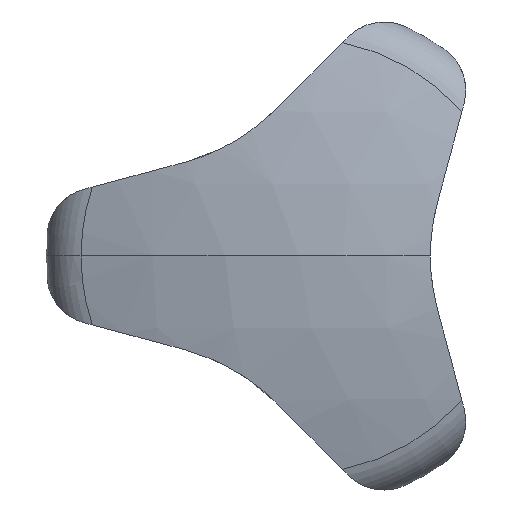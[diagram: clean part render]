
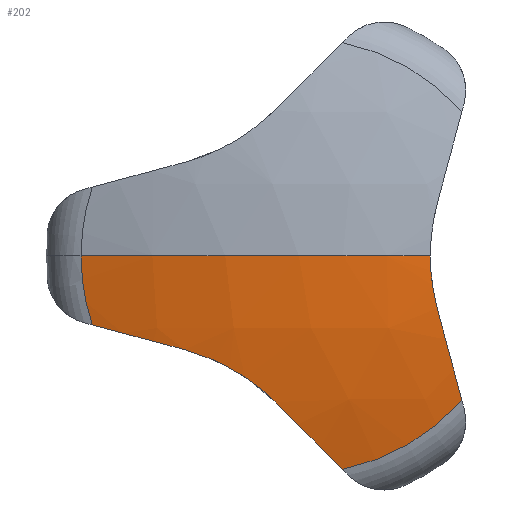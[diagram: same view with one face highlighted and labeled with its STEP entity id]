
A CAD part, left-side view. The second image highlights one B-rep face of the part: STEP entity #202.
In plain terms, the highlighted spherical face has radius 35 mm.
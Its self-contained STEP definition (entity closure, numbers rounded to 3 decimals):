
#33 = EDGE_CURVE ( 'NONE', #1074, #229, #824, .T. ) ;
#40 = ORIENTED_EDGE ( 'NONE', *, *, #1070, .T. ) ;
#45 = DIRECTION ( 'NONE',  ( 0., 1., 0. ) ) ;
#62 = DIRECTION ( 'NONE',  ( 0., 0., 1. ) ) ;
#73 = VERTEX_POINT ( 'NONE', #430 ) ;
#76 = CARTESIAN_POINT ( 'NONE',  ( 19., 0., 0. ) ) ;
#90 = EDGE_CURVE ( 'NONE', #1074, #1366, #1461, .T. ) ;
#94 = SPHERICAL_SURFACE ( 'NONE', #915, 35. ) ;
#95 = CARTESIAN_POINT ( 'NONE',  ( -15.391, 4.015, -5.188 ) ) ;
#105 = CARTESIAN_POINT ( 'NONE',  ( -15.282, 1.488, -6.909 ) ) ;
#144 = ORIENTED_EDGE ( 'NONE', *, *, #90, .T. ) ;
#167 = CARTESIAN_POINT ( 'NONE',  ( 19., -5.735, 1.537 ) ) ;
#202 = ADVANCED_FACE ( 'NONE', ( #1259 ), #94, .T. ) ;
#203 = VERTEX_POINT ( 'NONE', #1411 ) ;
#205 = CIRCLE ( 'NONE', #1288, 10.769 ) ;
#229 = VERTEX_POINT ( 'NONE', #389 ) ;
#250 = DIRECTION ( 'NONE',  ( 0., -0.259, -0.966 ) ) ;
#258 = DIRECTION ( 'NONE',  ( 0., 0.966, -0.259 ) ) ;
#282 = AXIS2_PLACEMENT_3D ( 'NONE', #730, #495, #1199 ) ;
#292 = CARTESIAN_POINT ( 'NONE',  ( -15.227, -6.841, -2.588 ) ) ;
#306 = CARTESIAN_POINT ( 'NONE',  ( -15.391, -6.5, -0.878 ) ) ;
#315 = CARTESIAN_POINT ( 'NONE',  ( -15.391, 2.878, -5.844 ) ) ;
#329 = AXIS2_PLACEMENT_3D ( 'NONE', #636, #877, #867 ) ;
#337 = CARTESIAN_POINT ( 'NONE',  ( -15.227, 5.662, -4.63 ) ) ;
#363 = CIRCLE ( 'NONE', #425, 34.493 ) ;
#368 = CARTESIAN_POINT ( 'NONE',  ( -14.302, -2.154, -10.552 ) ) ;
#374 = EDGE_CURVE ( 'NONE', #1042, #1366, #205, .T. ) ;
#389 = CARTESIAN_POINT ( 'NONE',  ( -15.391, -6.5, 0. ) ) ;
#395 = EDGE_CURVE ( 'NONE', #503, #203, #747, .T. ) ;
#425 = AXIS2_PLACEMENT_3D ( 'NONE', #845, #615, #963 ) ;
#428 = CARTESIAN_POINT ( 'NONE',  ( -16., 0., 0. ) ) ;
#430 = CARTESIAN_POINT ( 'NONE',  ( -15.227, -6.841, -2.588 ) ) ;
#495 = DIRECTION ( 'NONE',  ( 0., -0.707, 0.707 ) ) ;
#503 = VERTEX_POINT ( 'NONE', #337 ) ;
#516 = CARTESIAN_POINT ( 'NONE',  ( -14.302, 10.769, 0. ) ) ;
#555 = DIRECTION ( 'NONE',  ( 0., -1., 0. ) ) ;
#593 = ORIENTED_EDGE ( 'NONE', *, *, #33, .F. ) ;
#615 = DIRECTION ( 'NONE',  ( 0., -0.259, 0.966 ) ) ;
#636 = CARTESIAN_POINT ( 'NONE',  ( -14.302, 0., 0. ) ) ;
#679 = CARTESIAN_POINT ( 'NONE',  ( -15.391, -6.5, 0. ) ) ;
#702 = CARTESIAN_POINT ( 'NONE',  ( -14.302, -8.061, -7.141 ) ) ;
#713 = CARTESIAN_POINT ( 'NONE',  ( 19., 0., 0. ) ) ;
#730 = CARTESIAN_POINT ( 'NONE',  ( 19., 4.199, -4.199 ) ) ;
#738 = EDGE_CURVE ( 'NONE', #1484, #73, #794, .T. ) ;
#745 = AXIS2_PLACEMENT_3D ( 'NONE', #1480, #900, #1370 ) ;
#747 = B_SPLINE_CURVE_WITH_KNOTS ( 'NONE', 3,
 ( #782, #1251, #95, #315, #776, #1003, #105, #790 ),
 .UNSPECIFIED., .F., .F.,
 ( 4, 2, 2, 4 ),
 ( 0., 0.003, 0.004, 0.005 ),
 .UNSPECIFIED. ) ;
#776 = CARTESIAN_POINT ( 'NONE',  ( -15.377, 2.509, -6.09 ) ) ;
#782 = CARTESIAN_POINT ( 'NONE',  ( -15.227, 5.662, -4.63 ) ) ;
#790 = CARTESIAN_POINT ( 'NONE',  ( -15.227, 1.179, -7.218 ) ) ;
#794 = CIRCLE ( 'NONE', #1210, 34.493 ) ;
#812 = ORIENTED_EDGE ( 'NONE', *, *, #1223, .T. ) ;
#823 = ORIENTED_EDGE ( 'NONE', *, *, #738, .T. ) ;
#824 = CIRCLE ( 'NONE', #1311, 35. ) ;
#827 = EDGE_LOOP ( 'NONE', ( #593, #144, #883, #1268, #1454, #812, #1163, #823, #40 ) ) ;
#845 = CARTESIAN_POINT ( 'NONE',  ( 19., 1.537, -5.735 ) ) ;
#856 = EDGE_CURVE ( 'NONE', #1484, #1510, #988, .T. ) ;
#867 = DIRECTION ( 'NONE',  ( 0., 1., 0. ) ) ;
#877 = DIRECTION ( 'NONE',  ( 1., 0., 0. ) ) ;
#883 = ORIENTED_EDGE ( 'NONE', *, *, #374, .F. ) ;
#887 = CARTESIAN_POINT ( 'NONE',  ( -14.302, 0., 0. ) ) ;
#889 = B_SPLINE_CURVE_WITH_KNOTS ( 'NONE', 3,
 ( #292, #1362, #306, #679 ),
 .UNSPECIFIED., .F., .F.,
 ( 4, 4 ),
 ( 0., 0.003 ),
 .UNSPECIFIED. ) ;
#890 = CARTESIAN_POINT ( 'NONE',  ( -14.302, 10.215, -3.41 ) ) ;
#900 = DIRECTION ( 'NONE',  ( 0., 0., -1. ) ) ;
#915 = AXIS2_PLACEMENT_3D ( 'NONE', #713, #1502, #965 ) ;
#963 = DIRECTION ( 'NONE',  ( 0., 0.966, 0.259 ) ) ;
#965 = DIRECTION ( 'NONE',  ( 0., 1., 0. ) ) ;
#988 = CIRCLE ( 'NONE', #329, 10.769 ) ;
#1003 = CARTESIAN_POINT ( 'NONE',  ( -15.323, 1.816, -6.621 ) ) ;
#1042 = VERTEX_POINT ( 'NONE', #890 ) ;
#1070 = EDGE_CURVE ( 'NONE', #73, #229, #889, .T. ) ;
#1074 = VERTEX_POINT ( 'NONE', #428 ) ;
#1090 = DIRECTION ( 'NONE',  ( 1., 0., 0. ) ) ;
#1163 = ORIENTED_EDGE ( 'NONE', *, *, #856, .F. ) ;
#1199 = DIRECTION ( 'NONE',  ( 0., 0.707, 0.707 ) ) ;
#1210 = AXIS2_PLACEMENT_3D ( 'NONE', #167, #258, #250 ) ;
#1223 = EDGE_CURVE ( 'NONE', #203, #1510, #1260, .T. ) ;
#1251 = CARTESIAN_POINT ( 'NONE',  ( -15.336, 4.817, -4.857 ) ) ;
#1259 = FACE_OUTER_BOUND ( 'NONE', #827, .T. ) ;
#1260 = CIRCLE ( 'NONE', #282, 34.493 ) ;
#1268 = ORIENTED_EDGE ( 'NONE', *, *, #1280, .T. ) ;
#1280 = EDGE_CURVE ( 'NONE', #1042, #503, #363, .T. ) ;
#1288 = AXIS2_PLACEMENT_3D ( 'NONE', #887, #1090, #45 ) ;
#1311 = AXIS2_PLACEMENT_3D ( 'NONE', #76, #62, #555 ) ;
#1362 = CARTESIAN_POINT ( 'NONE',  ( -15.337, -6.614, -1.741 ) ) ;
#1366 = VERTEX_POINT ( 'NONE', #516 ) ;
#1370 = DIRECTION ( 'NONE',  ( -1., 0., 0. ) ) ;
#1411 = CARTESIAN_POINT ( 'NONE',  ( -15.227, 1.179, -7.218 ) ) ;
#1454 = ORIENTED_EDGE ( 'NONE', *, *, #395, .T. ) ;
#1461 = CIRCLE ( 'NONE', #745, 35. ) ;
#1480 = CARTESIAN_POINT ( 'NONE',  ( 19., 0., 0. ) ) ;
#1484 = VERTEX_POINT ( 'NONE', #702 ) ;
#1502 = DIRECTION ( 'NONE',  ( 0., 0., 1. ) ) ;
#1510 = VERTEX_POINT ( 'NONE', #368 ) ;
